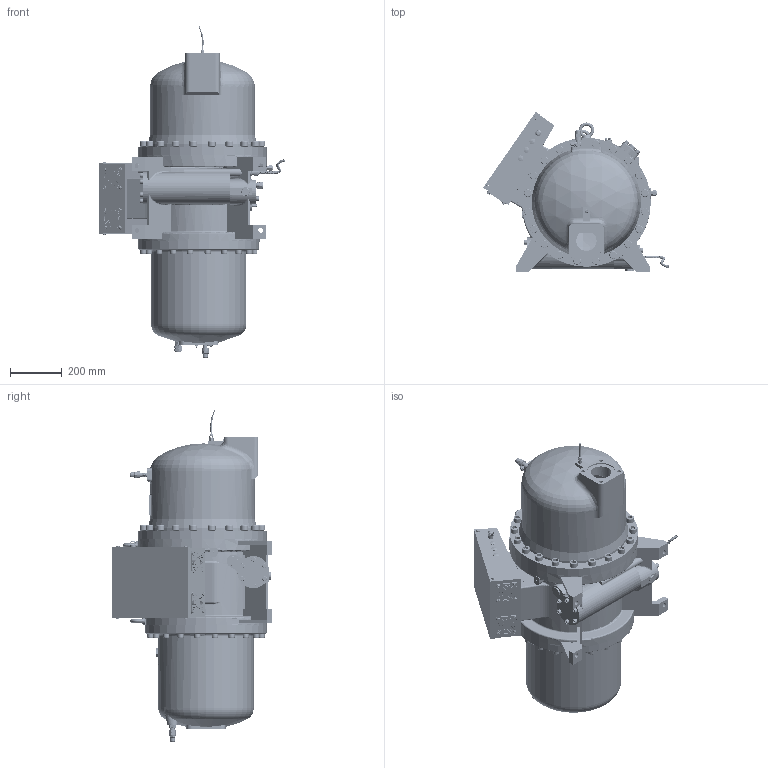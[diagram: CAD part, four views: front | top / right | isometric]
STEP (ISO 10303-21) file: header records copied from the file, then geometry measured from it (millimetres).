
FILE_DESCRIPTION (( 'STEP AP203' ), '1' );
FILE_NAME ('RC2-310AF&BF outline.STEP', '2014-12-26T01:02:29', ( 'jameswang' ), ( '' ), 'SwSTEP 2.0', 'SolidWorks 2013', '' );
FILE_SCHEMA (( 'CONFIG_CONTROL_DESIGN' ));
Length unit declared in the file: centimetre
Products named in the file (1): RC2-310AF&BF outline
Bounding box: 721.48 x 622.75 x 1288.94 mm (x, y, z)
Surface area: 3840795 mm2 (no closed solid volume)
Topology: 0 solids, 259 shells, 2660 faces, 10242 edges, 7697 vertices
Faces by surface type: plane 1285, cylinder 817, torus 315, cone 117, bspline 107, sphere 19
Entity records: 140728 total; most frequent: CARTESIAN_POINT 55265, DIRECTION 18350, ORIENTED_EDGE 15190, EDGE_CURVE 10217, VERTEX_POINT 7689, AXIS2_PLACEMENT_3D 6879, LINE 4592, VECTOR 4592
